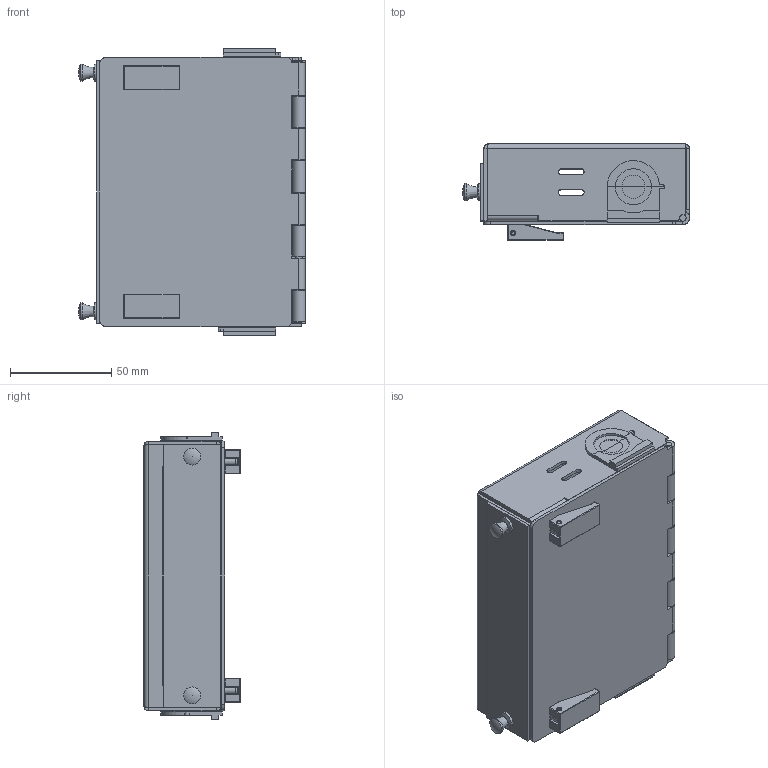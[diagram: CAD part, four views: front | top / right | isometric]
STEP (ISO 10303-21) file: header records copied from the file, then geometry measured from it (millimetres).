
FILE_DESCRIPTION(/* description */ ('STEP AP242','CAx-IF Rec.Pracs.---Representation and Presentation of Product Manufacturing Information (PMI)---4.0---2014-10-13','CAx-IF Rec.Pracs.---3D Tessellated Geometry---0.4---2014-09-14','2;1'),/* implementation_level */ '2;1');
FILE_NAME(/* name */ '6759e3e201126405d7ab542e',/* time_stamp */ '2024-12-11T19:11:31Z',/* author */ (''),/* organization */ (''),/* preprocessor_version */ 'ST-DEVELOPER v20',/* originating_system */ 'ONSHAPE BY PTC INC, 1.190',/* authorisation */ ' ');
FILE_SCHEMA (('AP242_MANAGED_MODEL_BASED_3D_ENGINEERING_MIM_LF { 1 0 10303 442 1 1 4 }'));
Length unit declared in the file: metre
Products named in the file (21): Nano - Wall Mount Slimline Patch Panel; GR-1.5in-BL; Blank Adapter Plate <1>; Blank LGX Footprint Plate; Mini Snap Latch <1>; Plunger - Mini Snap Latch; Grommet - Mini Snap Latch; Mini Snap Latch <2>; SoCo 19-81-10 <2>; Bushing - 19-81-10; Shaft - 19-81-10; Handle - 19-81-10; Pin - 19-81-10; Small Nut - 19-81-10; Manufacturer Assembly <1>; Door; Hinge Pin; Housing <1>; PEM CLS-440-2  ; Housing; SoCo 19-81-10 <1>
Assembly tree (43 placements, depth 4):
  Nano - Wall Mount Slimline Patch Panel
    GR-1.5in-BL  x2
    Blank Adapter Plate <1>
      Blank LGX Footprint Plate
      Mini Snap Latch <1>
        Plunger - Mini Snap Latch
        Grommet - Mini Snap Latch
      Mini Snap Latch <2>
        Grommet - Mini Snap Latch
        Plunger - Mini Snap Latch
    SoCo 19-81-10 <2>
      Bushing - 19-81-10
      Shaft - 19-81-10
      Handle - 19-81-10
      Pin - 19-81-10
      Small Nut - 19-81-10
    Manufacturer Assembly <1>
      Door
      Hinge Pin
      Housing <1>
        PEM CLS-440-2    x16
        Housing
    SoCo 19-81-10 <1>
      Bushing - 19-81-10
      Shaft - 19-81-10
      Small Nut - 19-81-10
      Pin - 19-81-10
      Handle - 19-81-10
Bounding box: 112.1 x 47.6 x 141.91 mm (x, y, z)
Volume: 81261.2 mm3; surface area: 106498.5 mm2
Topology: 36 solids, 36 shells, 2531 faces, 6833 edges, 4436 vertices
Faces by surface type: plane 1861, cylinder 388, cone 128, bspline 94, torus 44, sphere 16
Full cylindrical faces by diameter (mm): 1.956 x4, 1.981 x2, 2.037 x2, 2.108 x2, 2.156 x16, 2.184 x8, 3.175 x1, 3.454 x2, 3.81 x6, 3.937 x2, 4.191 x16, 4.216 x16, 4.3 x2, 5.588 x2, 5.842 x2, 6.35 x19, 8.382 x4, 8.6 x2, 8.712 x2, 9.779 x2
Entity records: 21688 total; most frequent: CARTESIAN_POINT 4693, DIRECTION 3129, ORIENTED_EDGE 3108, EDGE_CURVE 1554, LINE 1043, VECTOR 1043, AXIS2_PLACEMENT_3D 1043, VERTEX_POINT 1031
